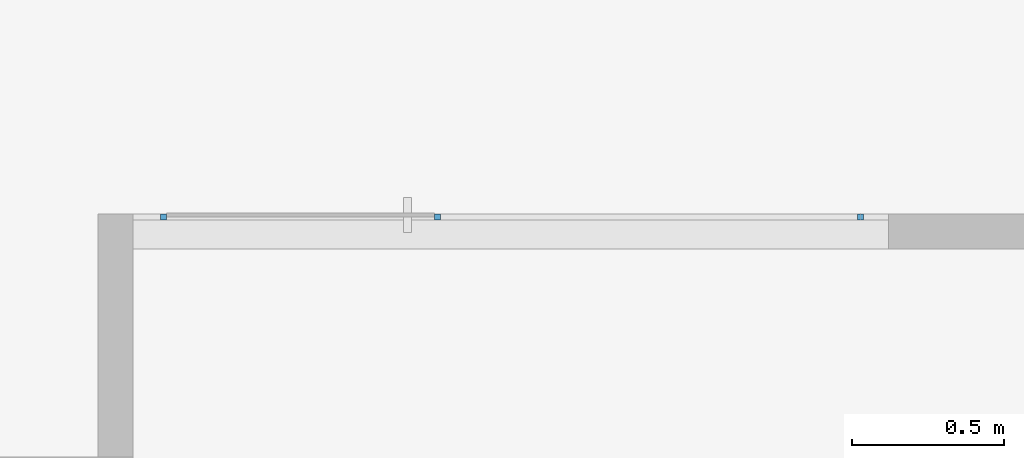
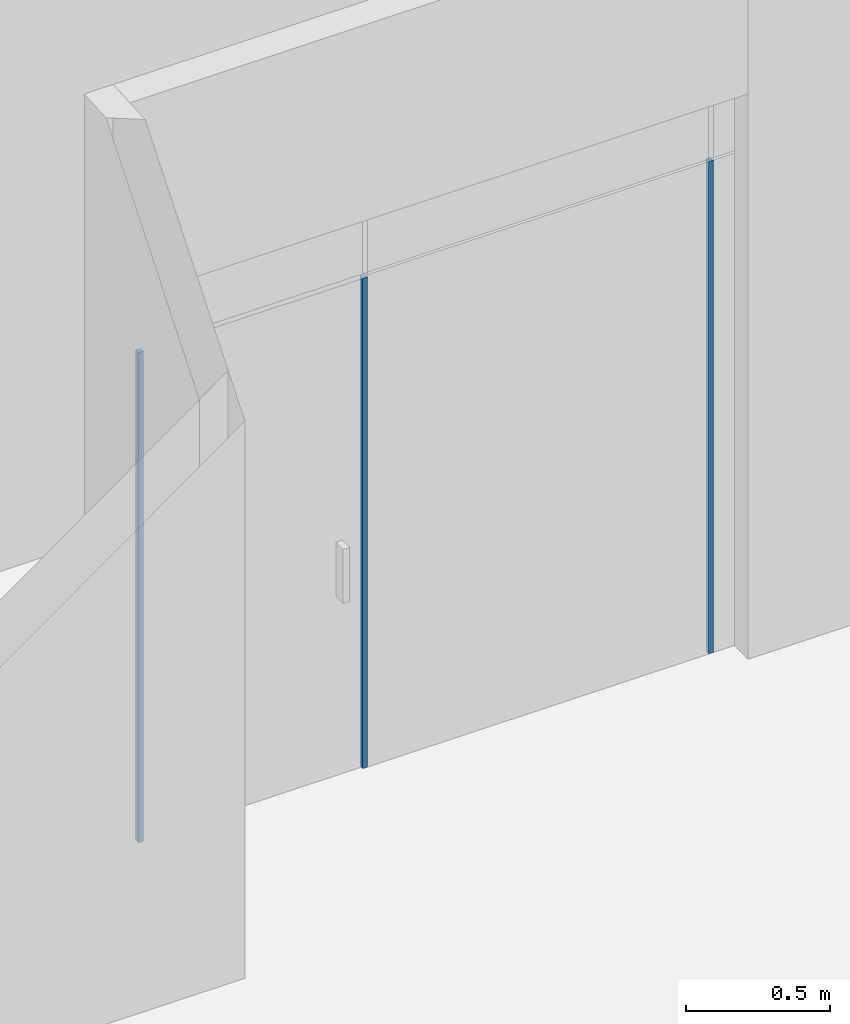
# One storey, part 5 of 46: 3 members, 1 element without a shape of its own.
"""IFC2X3 building model written with IfcOpenShell, lengths in millimetres."""

from ifc_helpers import new_model, entity, si_unit, converted_unit, derived_unit, direction, frame, origin, origin_2d_with_axis, place, context, subcontext, project, spatial, rectangle, extrude, source, transform, mapped, material, type_object, type_shapes, element, aggregate, save


model = new_model("IFC2X3")

# Units and contexts
model_context = context("Model", 3, precision=0.01, world=origin(), true_north=direction((6.12303176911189e-17, 1.0)))
body_context = subcontext(model_context, "Body", "Model", "MODEL_VIEW")
ifc_project = project(units=[si_unit("LENGTHUNIT", "METRE", prefix="MILLI"), si_unit("AREAUNIT", "SQUARE_METRE"), si_unit("VOLUMEUNIT", "CUBIC_METRE"), converted_unit("PLANEANGLEUNIT", "DEGREE", entity("IfcRatioMeasure", 0.0174532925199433), si_unit("PLANEANGLEUNIT", "RADIAN"), dimensions=[0, 0, 0, 0, 0, 0, 0]), si_unit("MASSUNIT", "GRAM", prefix="KILO"), derived_unit("MASSDENSITYUNIT", [(si_unit("MASSUNIT", "GRAM", prefix="KILO"), 1), (si_unit("LENGTHUNIT", "METRE"), -3)]), si_unit("TIMEUNIT", "SECOND"), si_unit("FREQUENCYUNIT", "HERTZ"), si_unit("THERMODYNAMICTEMPERATUREUNIT", "DEGREE_CELSIUS"), derived_unit("THERMALTRANSMITTANCEUNIT", [(si_unit("MASSUNIT", "GRAM", prefix="KILO"), 1), (si_unit("THERMODYNAMICTEMPERATUREUNIT", "KELVIN"), -1), (si_unit("TIMEUNIT", "SECOND"), -3)]), derived_unit("VOLUMETRICFLOWRATEUNIT", [(si_unit("LENGTHUNIT", "METRE"), 3), (si_unit("TIMEUNIT", "SECOND"), -1)]), si_unit("ELECTRICCURRENTUNIT", "AMPERE"), si_unit("ELECTRICVOLTAGEUNIT", "VOLT"), si_unit("POWERUNIT", "WATT"), si_unit("FORCEUNIT", "NEWTON", prefix="KILO"), si_unit("ILLUMINANCEUNIT", "LUX"), si_unit("LUMINOUSFLUXUNIT", "LUMEN"), si_unit("LUMINOUSINTENSITYUNIT", "CANDELA"), derived_unit("USERDEFINED", [(si_unit("MASSUNIT", "GRAM", prefix="KILO"), -1), (si_unit("LENGTHUNIT", "METRE"), -2), (si_unit("TIMEUNIT", "SECOND"), 3), (si_unit("LUMINOUSFLUXUNIT", "LUMEN"), 1)]), derived_unit("LINEARVELOCITYUNIT", [(si_unit("LENGTHUNIT", "METRE"), 1), (si_unit("TIMEUNIT", "SECOND"), -1)]), si_unit("PRESSUREUNIT", "PASCAL"), derived_unit("USERDEFINED", [(si_unit("LENGTHUNIT", "METRE"), -2), (si_unit("MASSUNIT", "GRAM", prefix="KILO"), 1), (si_unit("TIMEUNIT", "SECOND"), -2)])], contexts=[model_context])

# Site, building, storey
site_placement = place(None, frame((-151.875543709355, 2715.0, 0.0)))
site = spatial("IfcSite", under=ifc_project, at=site_placement, Name="Surface", CompositionType="ELEMENT")
building_placement = place(site_placement, origin())
building = spatial("IfcBuilding", under=site, at=building_placement, CompositionType="ELEMENT")
storey_placement = place(building_placement, frame((0.0, 0.0, 10060.0)))
storey = spatial("IfcBuildingStorey", under=building, at=storey_placement, Name="4 korrus", CompositionType="ELEMENT", Elevation=10060.0000000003)

# Curtain wall, members
curtain_wall_type = type_object("IfcCurtainWallType", Name="Curtain Wall:Klaassein KLS-20", PredefinedType="NOTDEFINED")
curtain_wall_placement = place(storey_placement, frame((0.0, 0.0, -10060.0)))
curtain_wall = element("IfcCurtainWall", 1, at=curtain_wall_placement, inside=storey, type_object=curtain_wall_type, Name="Curtain Wall:Klaassein KLS-20", ObjectType="Curtain Wall:Klaassein KLS-20")
ifc_material = material(Name="__Uks_hele tamm")
member_type_1 = type_object("IfcMemberType", Name="20 x 20mm", PredefinedType="MEMBER")
shared_shape_1 = source(origin(), body_context, "Body", "SweptSolid", [
    extrude(rectangle(XDim=20.0, YDim=20.0, at=origin_2d_with_axis()), frame((0.0, 0.0, -2090.0), z_axis=(0.0, 0.0, 1.0), x_axis=(0.0, -1.0, 0.0)), (0.0, 0.0, 1.0), 2090.0),
])
type_shapes(member_type_1, [shared_shape_1])
member_1_placement = place(storey_placement, frame((29851.0878393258, 4355.04493399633, 0.0), z_axis=(0.0, 0.0, -1.0), x_axis=(-1.0, 0.0, 0.0)))
member_1 = element("IfcMember", 2, at=member_1_placement, type_object=member_type_1, material=ifc_material, Name="Rectangular Mullion:20 x 20mm", ObjectType="20 x 20mm", context=body_context, shape_type="MappedRepresentation", body=[
    mapped(shared_shape_1, transform((0.0, 0.0, 0.0), scale=1.0)),
])
member_type_2 = type_object("IfcMemberType", Name="20 x 20mm", PredefinedType="MEMBER")
shared_shape_2 = source(origin(), body_context, "Body", "SweptSolid", [
    extrude(rectangle(XDim=20.0, YDim=20.0, at=origin_2d_with_axis()), frame((0.0, 0.0, -2080.0), z_axis=(0.0, 0.0, 1.0), x_axis=(0.0, -1.0, 0.0)), (0.0, 0.0, 1.0), 2080.0),
])
type_shapes(member_type_2, [shared_shape_2])
member_2_placement = place(storey_placement, frame((28461.564726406, 4355.04493399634, 0.0), z_axis=(0.0, 0.0, -1.0), x_axis=(-1.0, 0.0, 0.0)))
member_2 = element("IfcMember", 3, at=member_2_placement, type_object=member_type_2, material=ifc_material, Name="Rectangular Mullion:20 x 20mm", ObjectType="20 x 20mm", context=body_context, shape_type="MappedRepresentation", body=[
    mapped(shared_shape_2, transform((0.0, 0.0, 0.0), scale=1.0)),
])
member_type_3 = type_object("IfcMemberType", Name="20 x 20mm", PredefinedType="MEMBER")
shared_shape_3 = source(origin(), body_context, "Body", "SweptSolid", [
    extrude(rectangle(XDim=20.0, YDim=20.0, at=origin_2d_with_axis()), frame((0.0, 0.0, -2080.0), z_axis=(0.0, 0.0, 1.0), x_axis=(0.0, -1.0, 0.0)), (0.0, 0.0, 1.0), 2080.0),
])
type_shapes(member_type_3, [shared_shape_3])
member_3_placement = place(storey_placement, frame((27561.564726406, 4355.04493399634, 0.0), z_axis=(0.0, 0.0, -1.0), x_axis=(-1.0, 0.0, 0.0)))
member_3 = element("IfcMember", 4, at=member_3_placement, type_object=member_type_3, material=ifc_material, Name="Rectangular Mullion:20 x 20mm", ObjectType="20 x 20mm", context=body_context, shape_type="MappedRepresentation", body=[
    mapped(shared_shape_3, transform((0.0, 0.0, 0.0), scale=1.0)),
])
aggregate(curtain_wall, [member_1, member_2, member_3])

save(model, "model.ifc")
